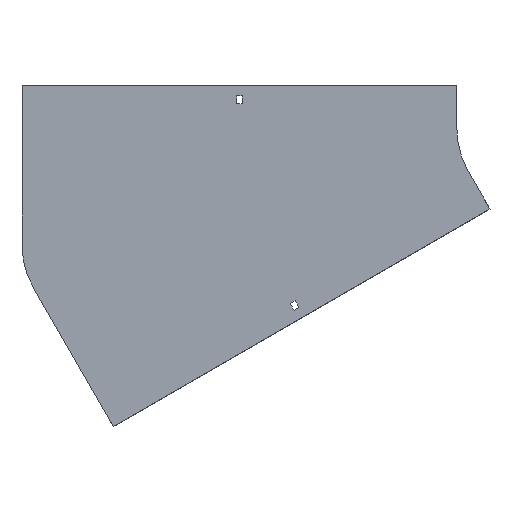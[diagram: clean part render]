
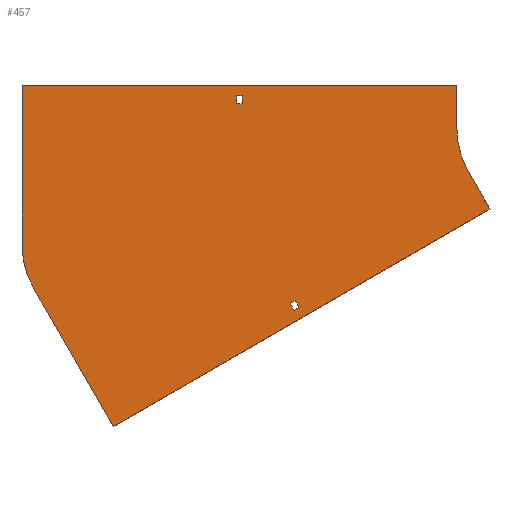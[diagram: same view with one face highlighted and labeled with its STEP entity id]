
A CAD part, front view. The second image highlights one B-rep face of the part: STEP entity #457.
In plain terms, the highlighted planar face has unit normal (0, -1, 0).
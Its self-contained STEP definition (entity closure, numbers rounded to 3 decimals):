
#22 = CARTESIAN_POINT ( 'NONE',  ( -293.156, 0., -202.74 ) ) ;
#24 = CARTESIAN_POINT ( 'NONE',  ( -355.25, 0., 38. ) ) ;
#39 = AXIS2_PLACEMENT_3D ( 'NONE', #1196, #753, #334 ) ;
#43 = ORIENTED_EDGE ( 'NONE', *, *, #59, .T. ) ;
#59 = EDGE_CURVE ( 'NONE', #1170, #843, #992, .T. ) ;
#61 = VECTOR ( 'NONE', #82, 1000. ) ;
#82 = DIRECTION ( 'NONE',  ( -0.866, 0., -0.5 ) ) ;
#89 = VECTOR ( 'NONE', #242, 1000. ) ;
#95 = LINE ( 'NONE', #853, #1281 ) ;
#106 = DIRECTION ( 'NONE',  ( -1., 0., 0. ) ) ;
#111 = CARTESIAN_POINT ( 'NONE',  ( -604., 0., -135.046 ) ) ;
#118 = DIRECTION ( 'NONE',  ( -0.5, 0., 0.866 ) ) ;
#122 = EDGE_CURVE ( 'NONE', #1315, #394, #539, .T. ) ;
#123 = VECTOR ( 'NONE', #106, 1000. ) ;
#128 = VERTEX_POINT ( 'NONE', #1008 ) ;
#153 = ORIENTED_EDGE ( 'NONE', *, *, #736, .F. ) ;
#156 = VECTOR ( 'NONE', #1180, 1000. ) ;
#167 = CARTESIAN_POINT ( 'NONE',  ( -283.026, 0., -207.284 ) ) ;
#170 = CARTESIAN_POINT ( 'NONE',  ( -348.75, 0., 29. ) ) ;
#173 = EDGE_CURVE ( 'NONE', #548, #999, #671, .T. ) ;
#180 = CARTESIAN_POINT ( 'NONE',  ( -61.603, 0., -93.301 ) ) ;
#186 = FACE_OUTER_BOUND ( 'NONE', #337, .T. ) ;
#187 = EDGE_CURVE ( 'NONE', #695, #1315, #1219, .T. ) ;
#198 = CARTESIAN_POINT ( 'NONE',  ( -86.603, 0., -50. ) ) ;
#206 = LINE ( 'NONE', #527, #945 ) ;
#217 = LINE ( 'NONE', #661, #420 ) ;
#229 = LINE ( 'NONE', #543, #1397 ) ;
#241 = ORIENTED_EDGE ( 'NONE', *, *, #173, .F. ) ;
#242 = DIRECTION ( 'NONE',  ( 0., 0., -1. ) ) ;
#244 = CARTESIAN_POINT ( 'NONE',  ( -293.156, 0., -202.74 ) ) ;
#281 = CARTESIAN_POINT ( 'NONE',  ( -348.75, 0., 29. ) ) ;
#289 = DIRECTION ( 'NONE',  ( 0.5, 0., -0.866 ) ) ;
#306 = VERTEX_POINT ( 'NONE', #198 ) ;
#324 = ORIENTED_EDGE ( 'NONE', *, *, #1022, .T. ) ;
#332 = CARTESIAN_POINT ( 'NONE',  ( -604., 0., 50. ) ) ;
#334 = DIRECTION ( 'NONE',  ( 0., 0., -1. ) ) ;
#335 = VERTEX_POINT ( 'NONE', #1052 ) ;
#337 = EDGE_LOOP ( 'NONE', ( #409, #755, #723, #837, #400, #411, #707, #241 ) ) ;
#345 = CARTESIAN_POINT ( 'NONE',  ( -498.079, 0., -345.301 ) ) ;
#353 = DIRECTION ( 'NONE',  ( -0.866, 0., -0.5 ) ) ;
#362 = EDGE_CURVE ( 'NONE', #306, #1318, #95, .T. ) ;
#394 = VERTEX_POINT ( 'NONE', #111 ) ;
#400 = ORIENTED_EDGE ( 'NONE', *, *, #434, .F. ) ;
#409 = ORIENTED_EDGE ( 'NONE', *, *, #613, .F. ) ;
#411 = ORIENTED_EDGE ( 'NONE', *, *, #362, .F. ) ;
#414 = VECTOR ( 'NONE', #353, 1000. ) ;
#420 = VECTOR ( 'NONE', #665, 1000. ) ;
#434 = EDGE_CURVE ( 'NONE', #1318, #695, #578, .T. ) ;
#457 = ADVANCED_FACE ( 'NONE', ( #500, #186, #1045 ), #1378, .T. ) ;
#458 = CARTESIAN_POINT ( 'NONE',  ( -498.079, 0., -345.301 ) ) ;
#459 = LINE ( 'NONE', #281, #1198 ) ;
#460 = DIRECTION ( 'NONE',  ( 1., 0., 0. ) ) ;
#471 = CARTESIAN_POINT ( 'NONE',  ( -100., 0., 50. ) ) ;
#500 = FACE_BOUND ( 'NONE', #689, .T. ) ;
#527 = CARTESIAN_POINT ( 'NONE',  ( -288.656, 0., -210.534 ) ) ;
#539 = CIRCLE ( 'NONE', #659, 100. ) ;
#543 = CARTESIAN_POINT ( 'NONE',  ( -604., 0., 50. ) ) ;
#548 = VERTEX_POINT ( 'NONE', #1279 ) ;
#563 = ORIENTED_EDGE ( 'NONE', *, *, #1382, .F. ) ;
#576 = CARTESIAN_POINT ( 'NONE',  ( -287.526, 0., -199.49 ) ) ;
#578 = LINE ( 'NONE', #180, #61 ) ;
#584 = DIRECTION ( 'NONE',  ( 0.5, 0., -0.866 ) ) ;
#590 = EDGE_CURVE ( 'NONE', #999, #306, #656, .T. ) ;
#593 = VECTOR ( 'NONE', #460, 1000. ) ;
#613 = EDGE_CURVE ( 'NONE', #1403, #548, #229, .T. ) ;
#646 = LINE ( 'NONE', #967, #123 ) ;
#653 = ORIENTED_EDGE ( 'NONE', *, *, #1069, .F. ) ;
#656 = CIRCLE ( 'NONE', #39, 100. ) ;
#659 = AXIS2_PLACEMENT_3D ( 'NONE', #696, #1015, #1123 ) ;
#661 = CARTESIAN_POINT ( 'NONE',  ( -355.25, 0., 29. ) ) ;
#665 = DIRECTION ( 'NONE',  ( 0., 0., 1. ) ) ;
#666 = LINE ( 'NONE', #576, #1247 ) ;
#671 = LINE ( 'NONE', #471, #89 ) ;
#689 = EDGE_LOOP ( 'NONE', ( #324, #43, #1270, #1031 ) ) ;
#695 = VERTEX_POINT ( 'NONE', #458 ) ;
#696 = CARTESIAN_POINT ( 'NONE',  ( -504., 0., -135.046 ) ) ;
#701 = CARTESIAN_POINT ( 'NONE',  ( -355.25, 0., 38. ) ) ;
#704 = DIRECTION ( 'NONE',  ( 0., 0., -1. ) ) ;
#707 = ORIENTED_EDGE ( 'NONE', *, *, #590, .F. ) ;
#710 = CARTESIAN_POINT ( 'NONE',  ( -348.75, 0., 38. ) ) ;
#723 = ORIENTED_EDGE ( 'NONE', *, *, #122, .F. ) ;
#736 = EDGE_CURVE ( 'NONE', #335, #1399, #1220, .T. ) ;
#742 = CARTESIAN_POINT ( 'NONE',  ( -604., 0., -135.046 ) ) ;
#753 = DIRECTION ( 'NONE',  ( 0., -1., 0. ) ) ;
#755 = ORIENTED_EDGE ( 'NONE', *, *, #955, .F. ) ;
#783 = CARTESIAN_POINT ( 'NONE',  ( -590.603, 0., -185.046 ) ) ;
#837 = ORIENTED_EDGE ( 'NONE', *, *, #187, .F. ) ;
#838 = VERTEX_POINT ( 'NONE', #170 ) ;
#843 = VERTEX_POINT ( 'NONE', #710 ) ;
#853 = CARTESIAN_POINT ( 'NONE',  ( -86.603, 0., -50. ) ) ;
#870 = EDGE_LOOP ( 'NONE', ( #653, #986, #153, #563 ) ) ;
#945 = VECTOR ( 'NONE', #954, 1000. ) ;
#948 = DIRECTION ( 'NONE',  ( 0., -1., 0. ) ) ;
#954 = DIRECTION ( 'NONE',  ( 0.866, 0., 0.5 ) ) ;
#955 = EDGE_CURVE ( 'NONE', #394, #1403, #962, .T. ) ;
#956 = DIRECTION ( 'NONE',  ( 1., 0., 0. ) ) ;
#962 = LINE ( 'NONE', #742, #156 ) ;
#967 = CARTESIAN_POINT ( 'NONE',  ( -355.25, 0., 29. ) ) ;
#986 = ORIENTED_EDGE ( 'NONE', *, *, #1129, .F. ) ;
#992 = LINE ( 'NONE', #24, #593 ) ;
#996 = EDGE_CURVE ( 'NONE', #838, #128, #646, .T. ) ;
#999 = VERTEX_POINT ( 'NONE', #1066 ) ;
#1008 = CARTESIAN_POINT ( 'NONE',  ( -355.25, 0., 29. ) ) ;
#1010 = CARTESIAN_POINT ( 'NONE',  ( -61.603, 0., -93.301 ) ) ;
#1015 = DIRECTION ( 'NONE',  ( 0., 1., 0. ) ) ;
#1022 = EDGE_CURVE ( 'NONE', #128, #1170, #217, .T. ) ;
#1031 = ORIENTED_EDGE ( 'NONE', *, *, #996, .T. ) ;
#1034 = CARTESIAN_POINT ( 'NONE',  ( -288.656, 0., -210.534 ) ) ;
#1045 = FACE_BOUND ( 'NONE', #870, .T. ) ;
#1052 = CARTESIAN_POINT ( 'NONE',  ( -287.526, 0., -199.49 ) ) ;
#1056 = VECTOR ( 'NONE', #1345, 1000. ) ;
#1066 = CARTESIAN_POINT ( 'NONE',  ( -100., 0., 0. ) ) ;
#1069 = EDGE_CURVE ( 'NONE', #1094, #1172, #206, .T. ) ;
#1094 = VERTEX_POINT ( 'NONE', #1034 ) ;
#1121 = LINE ( 'NONE', #1355, #1340 ) ;
#1123 = DIRECTION ( 'NONE',  ( 0., 0., 1. ) ) ;
#1129 = EDGE_CURVE ( 'NONE', #1399, #1094, #1121, .T. ) ;
#1170 = VERTEX_POINT ( 'NONE', #701 ) ;
#1172 = VERTEX_POINT ( 'NONE', #167 ) ;
#1180 = DIRECTION ( 'NONE',  ( 0., 0., 1. ) ) ;
#1196 = CARTESIAN_POINT ( 'NONE',  ( 0., 0., 0. ) ) ;
#1198 = VECTOR ( 'NONE', #704, 1000. ) ;
#1219 = LINE ( 'NONE', #345, #1056 ) ;
#1220 = LINE ( 'NONE', #22, #414 ) ;
#1247 = VECTOR ( 'NONE', #118, 1000. ) ;
#1262 = DIRECTION ( 'NONE',  ( 0., 0., -1. ) ) ;
#1270 = ORIENTED_EDGE ( 'NONE', *, *, #1278, .T. ) ;
#1278 = EDGE_CURVE ( 'NONE', #843, #838, #459, .T. ) ;
#1279 = CARTESIAN_POINT ( 'NONE',  ( -100., 0., 50. ) ) ;
#1281 = VECTOR ( 'NONE', #584, 1000. ) ;
#1302 = AXIS2_PLACEMENT_3D ( 'NONE', #1372, #948, #1262 ) ;
#1315 = VERTEX_POINT ( 'NONE', #783 ) ;
#1318 = VERTEX_POINT ( 'NONE', #1010 ) ;
#1340 = VECTOR ( 'NONE', #289, 1000. ) ;
#1345 = DIRECTION ( 'NONE',  ( -0.5, 0., 0.866 ) ) ;
#1355 = CARTESIAN_POINT ( 'NONE',  ( -293.156, 0., -202.74 ) ) ;
#1372 = CARTESIAN_POINT ( 'NONE',  ( 0., 0., 0. ) ) ;
#1378 = PLANE ( 'NONE',  #1302 ) ;
#1382 = EDGE_CURVE ( 'NONE', #1172, #335, #666, .T. ) ;
#1397 = VECTOR ( 'NONE', #956, 1000. ) ;
#1399 = VERTEX_POINT ( 'NONE', #244 ) ;
#1403 = VERTEX_POINT ( 'NONE', #332 ) ;
